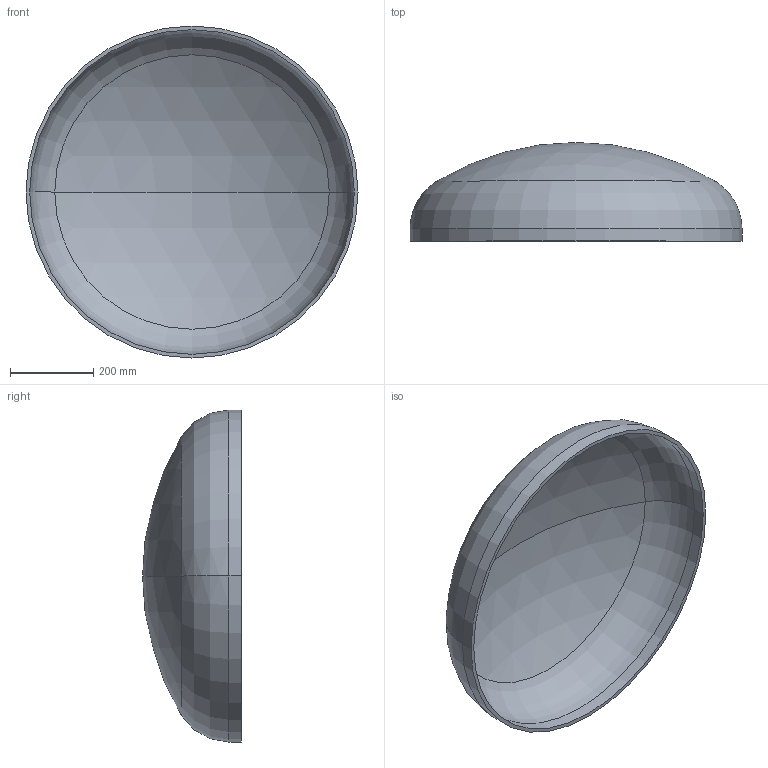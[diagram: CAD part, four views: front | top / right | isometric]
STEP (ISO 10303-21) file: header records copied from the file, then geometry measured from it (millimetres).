
FILE_DESCRIPTION (( 'STEP AP203' ), '1' );
FILE_NAME ('DIN 28013 Korbbogenform_-_Boden DIN 28013 - 800 x 30 - I - s=9.step', '2016-07-01T08:12:17', ( '' ), ( '' ), 'SwSTEP 2.0', 'SolidWorks 2013', '' );
FILE_SCHEMA (( 'CONFIG_CONTROL_DESIGN' ));
Length unit declared in the file: millimetre
Products named in the file (1): DIN 28013 Korbbogenform_-_Boden DIN 28013 - 800 x 30 - I - s=9
Bounding box: 800 x 238.01 x 800 mm (x, y, z)
Volume: 6861677.5 mm3; surface area: 1547351.3 mm2
Topology: 1 solids, 1 shells, 13 faces, 24 edges, 14 vertices
Faces by surface type: torus 4, cylinder 4, sphere 4, plane 1
Entity records: 407 total; most frequent: DIRECTION 72, CARTESIAN_POINT 52, ORIENTED_EDGE 48, AXIS2_PLACEMENT_3D 34, EDGE_CURVE 24, CIRCLE 20, EDGE_LOOP 14, VERTEX_POINT 14
